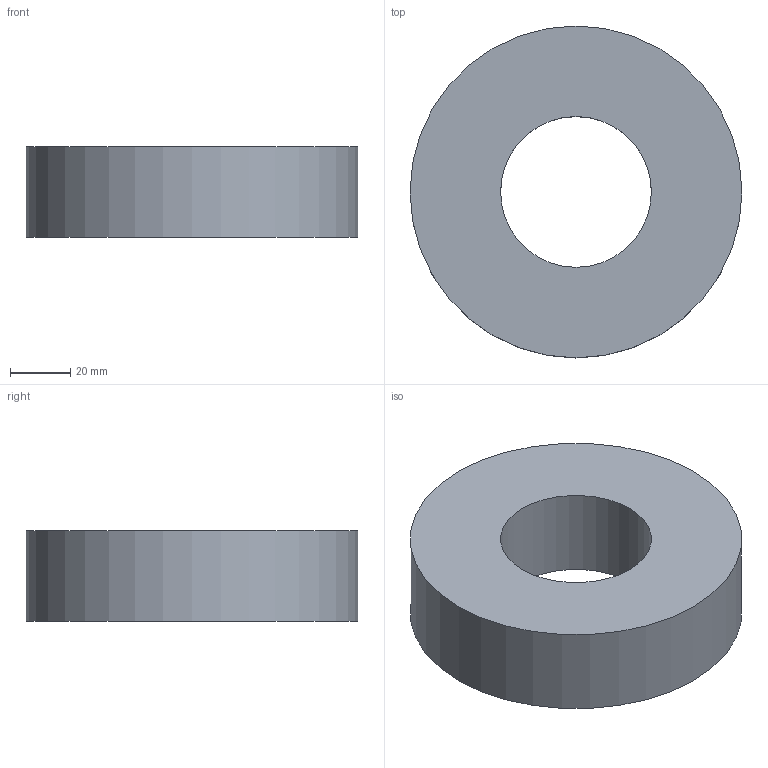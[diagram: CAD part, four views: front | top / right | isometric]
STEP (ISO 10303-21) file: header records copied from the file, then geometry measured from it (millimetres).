
FILE_DESCRIPTION(('Open CASCADE Model'),'2;1');
FILE_NAME('Open CASCADE Shape Model','2026-10-17T16:45:02',('Author'),( 'Open CASCADE'),'Open CASCADE STEP processor 8.0','build123d', 'Unknown');
FILE_SCHEMA(('AUTOMOTIVE_DESIGN { 1 0 10303 214 1 1 1 1 }'));
Length unit declared in the file: millimetre
Products named in the file (1): COMPOUND
Bounding box: 110 x 110 x 30 mm (x, y, z)
Volume: 226194.7 mm3; surface area: 30159.3 mm2
Topology: 1 solids, 1 shells, 4 faces, 6 edges, 4 vertices
Faces by surface type: cylinder 2, plane 2
Full cylindrical faces by diameter (mm): 50 x1, 110 x1
Entity records: 186 total; most frequent: DIRECTION 32, CARTESIAN_POINT 27, ORIENTED_EDGE 12, PCURVE 12, DEFINITIONAL_REPRESENTATION 12, LINE 10, VECTOR 10, AXIS2_PLACEMENT_3D 9
